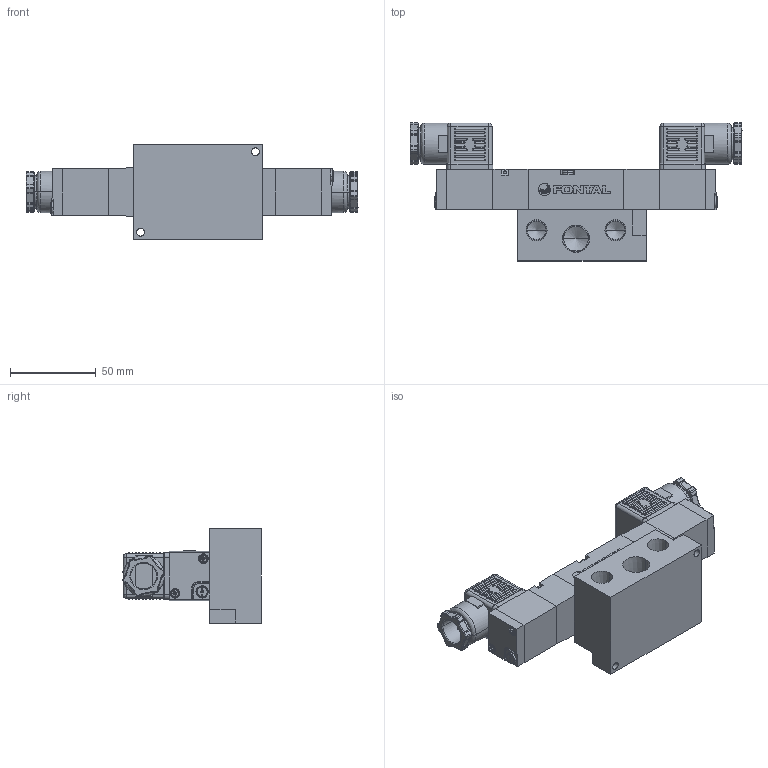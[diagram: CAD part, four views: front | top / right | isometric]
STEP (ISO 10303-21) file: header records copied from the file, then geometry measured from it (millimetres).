
FILE_DESCRIPTION (( 'STEP AP203' ), '1' );
FILE_NAME ('PCD2408#-03-#C#.STEP', '2016-02-04T05:59:42', ( 'Sam Lin' ), ( '' ), 'SwSTEP 2.0', 'SolidWorks 2013', '' );
FILE_SCHEMA (( 'CONFIG_CONTROL_DESIGN' ));
Length unit declared in the file: metre
Products named in the file (12): PCS2406-8; PCS2406-9; PC6-M3; PCS2406-3-C; PC08-1; PC08-4; PC08-2; PCS2406-3-小圓珠; PC08-MARK; PCD2408#-03-#C#; PC6-M4; PCS2406-7
Assembly tree (23 placements, depth 2):
  PCD2408#-03-#C#
    PC08-1
    PC08-2
    PC08-MARK
    PC6-M4  x4
    PCS2406-7  x2
    PCS2406-8  x2
    PCS2406-9  x2
    PC6-M3  x4
    PCS2406-3-C  x2
    PC08-4  x2
    PCS2406-3-小圓珠  x2
Bounding box: 193.7 x 80.64 x 55 mm (x, y, z)
Volume: 265543.7 mm3; surface area: 63169.4 mm2
Topology: 29 solids, 29 shells, 1174 faces, 3023 edges, 1703 vertices
Faces by surface type: plane 408, bspline 350, cylinder 326, cone 90
Entity records: 25305 total; most frequent: CARTESIAN_POINT 10810, ORIENTED_EDGE 2792, DIRECTION 2500, EDGE_CURVE 1396, AXIS2_PLACEMENT_3D 909, VERTEX_POINT 879, VECTOR 682, LINE 682
